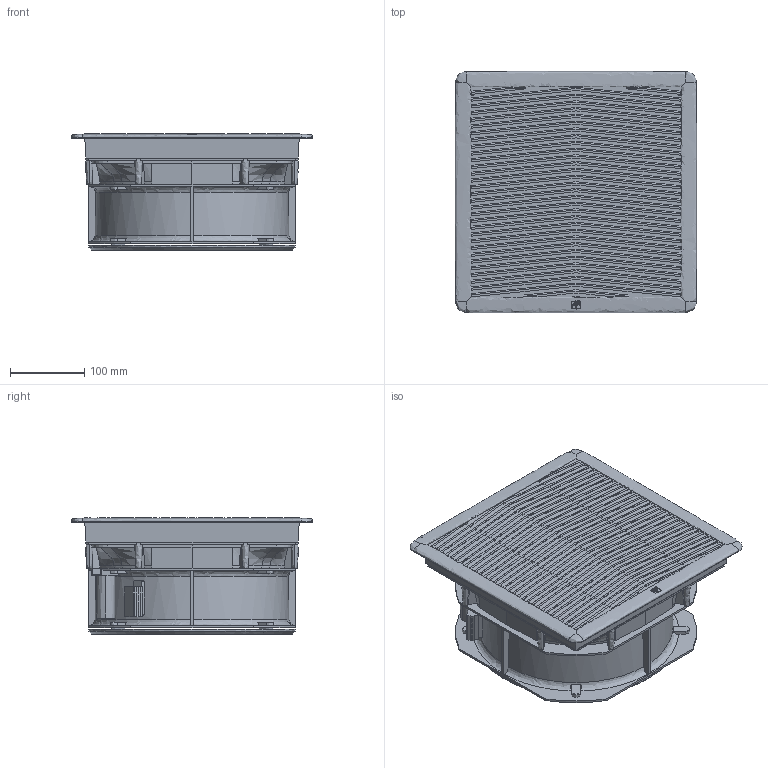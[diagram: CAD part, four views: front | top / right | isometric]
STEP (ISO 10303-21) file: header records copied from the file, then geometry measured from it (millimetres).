
FILE_DESCRIPTION(/* description */ (''),/* implementation_level */ '2;1');
FILE_NAME(/* name */ 'GF20KGyxxxBE',/* time_stamp */ '2025-11-06T12:28:44+01:00',/* author */ (''),/* organization */ (''),/* preprocessor_version */ 'ST-DEVELOPER v16.5',/* originating_system */ 'Rhino 7.38',/* authorisation */ '');
FILE_SCHEMA (('AUTOMOTIVE_DESIGN'));
Length unit declared in the file: millimetre
Products named in the file (11): Document; GF20KGyxxxBE; GF20KUG_Assieme semplificato; GF20B-7035_semplificato; GF20C-7035_semplificata; DT-01375DSI_semplificata; GMP250NK_semplificata; DT-01547DSI_assieme semplificato; DT-01464DSI_Semplificata; 040014_LK_980-01-4_Semplificata; DT-01516DSI_semplificato
Assembly tree (10 placements, depth 4):
  Document
    GF20KGyxxxBE
      GF20KUG_Assieme semplificato
        GF20B-7035_semplificato
        GF20C-7035_semplificata
      DT-01375DSI_semplificata
      GMP250NK_semplificata
      DT-01547DSI_assieme semplificato
        DT-01464DSI_Semplificata
        040014_LK_980-01-4_Semplificata
        DT-01516DSI_semplificato
Bounding box: 325 x 325 x 156.73 mm (x, y, z)
Volume: 9842032.6 mm3; surface area: 932089.2 mm2
Topology: 40 solids, 40 shells, 1259 faces, 3245 edges, 2094 vertices
Faces by surface type: plane 939, bspline 246, cylinder 74
Entity records: 55564 total; most frequent: CARTESIAN_POINT 32584, ORIENTED_EDGE 6482, EDGE_CURVE 3241, B_SPLINE_CURVE_WITH_KNOTS 2901, VERTEX_POINT 2094, EDGE_LOOP 1291, ADVANCED_FACE 1259, FACE_OUTER_BOUND 1259
